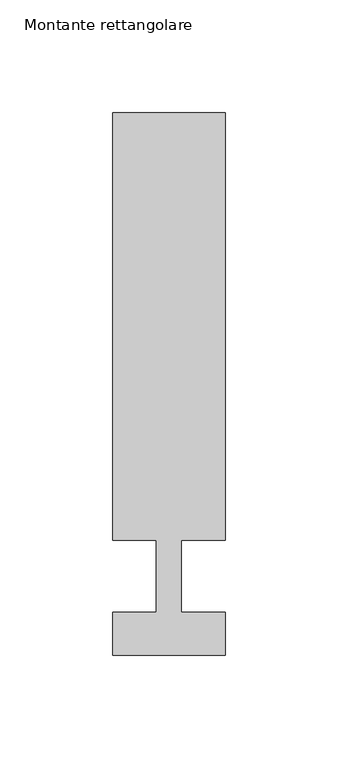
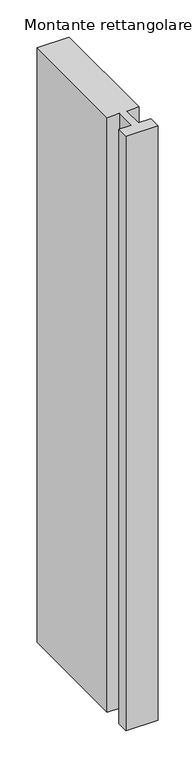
"""IFC4 building model written with IfcOpenShell, lengths in millimetres: member geometry, Montante rettangolare : Aluk_SL50_Traverso K746_vetro 32."""

from ifc_helpers import new_model, si_unit, frame, origin, place, context, project, spatial, polyline, outline, extrude, source, transform, mapped, element, save


def montante_rettangolare_7fc66ecf(model_context):
    return source(origin(), model_context, "Body", "SweptSolid", [
        extrude(outline(polyline([(-25.0, 206.0), (25.0, 206.0), (25.0, 16.0), (5.5, 16.0), (5.5, -16.005185), (25.0, -16.005185), (25.0, -35.0022918), (-25.0, -35.0022918), (-25.0, -16.005185), (-5.5, -16.005185), (-5.5, 16.0), (-25.0, 16.0), (-25.0, 206.0)])), frame((0.0, 0.0, -980.0992581), z_axis=(0.0, 0.0, 1.0), x_axis=(1.0, 0.0, 0.0)), (0.0, 0.0, 1.0), 980.0992581),
    ])


if __name__ == "__main__":
    model = new_model("IFC4")
    model_context = context("Model", 3, world=origin())
    ifc_project = project(units=[si_unit("LENGTHUNIT", "METRE", prefix="MILLI")], contexts=[model_context])
    site = spatial("IfcSite", under=ifc_project)
    building = spatial("IfcBuilding", under=site)
    placement = place(None, origin())
    montante_rettangolare_shape = montante_rettangolare_7fc66ecf(model_context)
    element("IfcMember", 1, ObjectType="Montante rettangolare : Aluk_SL50_Traverso K746_vetro 32", at=placement, inside=building, context=model_context, shape_type="MappedRepresentation", body=[
        mapped(montante_rettangolare_shape, transform((0.0, 0.0, 0.0), x_axis=(1.0, 0.0, 0.0), y_axis=(0.0, 1.0, 0.0), z_axis=(0.0, 0.0, 1.0))),
    ])
    save(model, "model.ifc")
